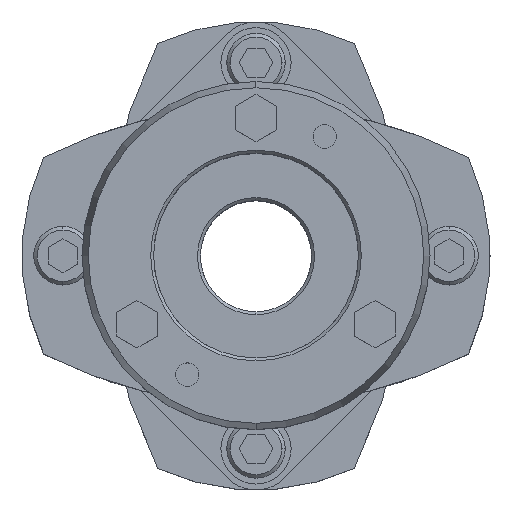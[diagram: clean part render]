
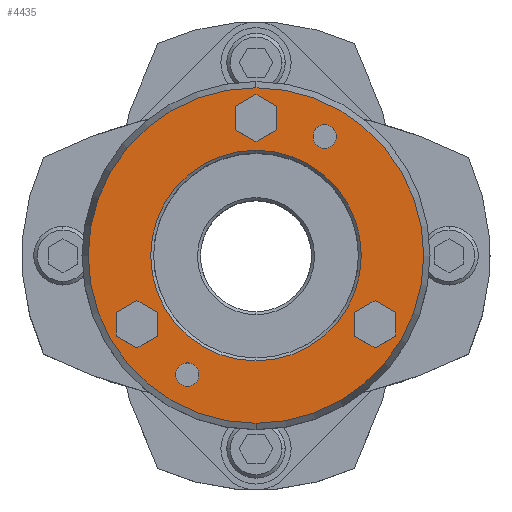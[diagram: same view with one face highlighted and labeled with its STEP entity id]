
A CAD part, top view. The second image highlights one B-rep face of the part: STEP entity #4435.
In plain terms, the highlighted planar face has unit normal (0, 0, 1).
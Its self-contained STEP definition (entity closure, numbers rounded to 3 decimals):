
#2309=CARTESIAN_POINT('',(0.,18.,45.25));
#2310=VERTEX_POINT('',#2309);
#2326=CARTESIAN_POINT('',(0.,-18.,45.25));
#2327=VERTEX_POINT('',#2326);
#2334=CARTESIAN_POINT('',(0.,0.,45.25));
#2335=DIRECTION('',(0.0,0.0,1.0));
#2336=DIRECTION('',(0.,1.0,0.0));
#2337=AXIS2_PLACEMENT_3D('',#2334,#2335,#2336);
#2338=CIRCLE('',#2337,18.0);
#2339=EDGE_CURVE('',#2327,#2310,#2338,.T.);
#2497=CARTESIAN_POINT('',(0.,-28.678,45.25));
#2498=VERTEX_POINT('',#2497);
#2505=CARTESIAN_POINT('',(0.,28.678,45.25));
#2506=VERTEX_POINT('',#2505);
#2507=CARTESIAN_POINT('',(0.,0.,45.25));
#2508=DIRECTION('',(0.0,0.0,-1.0));
#2509=DIRECTION('',(0.,-1.0,0.0));
#2510=AXIS2_PLACEMENT_3D('',#2507,#2508,#2509);
#2511=CIRCLE('',#2510,28.678);
#2512=EDGE_CURVE('',#2498,#2506,#2511,.T.);
#2625=CARTESIAN_POINT('',(-11.75,-18.352,45.25));
#2626=VERTEX_POINT('',#2625);
#2642=CARTESIAN_POINT('',(-11.75,-22.352,45.25));
#2643=VERTEX_POINT('',#2642);
#2650=CARTESIAN_POINT('',(-11.75,-20.352,45.25));
#2651=DIRECTION('',(0.0,0.0,-1.0));
#2652=DIRECTION('',(0.,1.0,0.0));
#2653=AXIS2_PLACEMENT_3D('',#2650,#2651,#2652);
#2654=CIRCLE('',#2653,2.0);
#2655=EDGE_CURVE('',#2626,#2643,#2654,.T.);
#2667=CARTESIAN_POINT('',(11.75,22.352,45.25));
#2668=VERTEX_POINT('',#2667);
#2684=CARTESIAN_POINT('',(11.75,18.352,45.25));
#2685=VERTEX_POINT('',#2684);
#2692=CARTESIAN_POINT('',(11.75,20.352,45.25));
#2693=DIRECTION('',(0.0,0.0,-1.0));
#2694=DIRECTION('',(0.,1.0,0.0));
#2695=AXIS2_PLACEMENT_3D('',#2692,#2693,#2694);
#2696=CIRCLE('',#2695,2.0);
#2697=EDGE_CURVE('',#2668,#2685,#2696,.T.);
#3448=CARTESIAN_POINT('',(11.75,20.352,45.25));
#3449=DIRECTION('',(0.0,0.0,-1.0));
#3450=DIRECTION('',(0.,1.0,0.0));
#3451=AXIS2_PLACEMENT_3D('',#3448,#3449,#3450);
#3452=CIRCLE('',#3451,2.0);
#3453=EDGE_CURVE('',#2685,#2668,#3452,.T.);
#3482=CARTESIAN_POINT('',(-11.75,-20.352,45.25));
#3483=DIRECTION('',(0.0,0.0,-1.0));
#3484=DIRECTION('',(0.,1.0,0.0));
#3485=AXIS2_PLACEMENT_3D('',#3482,#3483,#3484);
#3486=CIRCLE('',#3485,2.0);
#3487=EDGE_CURVE('',#2643,#2626,#3486,.T.);
#3525=CARTESIAN_POINT('',(0.,27.541,45.25));
#3526=VERTEX_POINT('',#3525);
#3533=CARTESIAN_POINT('',(-3.5,25.521,45.25));
#3534=VERTEX_POINT('',#3533);
#3535=CARTESIAN_POINT('',(-3.5,25.521,45.25));
#3536=DIRECTION('',(0.866,0.5,0.0));
#3537=VECTOR('',#3536,4.041);
#3538=LINE('',#3535,#3537);
#3539=EDGE_CURVE('',#3534,#3526,#3538,.T.);
#3563=CARTESIAN_POINT('',(3.5,25.521,45.25));
#3564=VERTEX_POINT('',#3563);
#3571=CARTESIAN_POINT('',(0.,27.541,45.25));
#3572=DIRECTION('',(0.866,-0.5,0.0));
#3573=VECTOR('',#3572,4.041);
#3574=LINE('',#3571,#3573);
#3575=EDGE_CURVE('',#3526,#3564,#3574,.T.);
#3594=CARTESIAN_POINT('',(3.5,21.479,45.25));
#3595=VERTEX_POINT('',#3594);
#3602=CARTESIAN_POINT('',(3.5,25.521,45.25));
#3603=DIRECTION('',(0.,-1.0,0.0));
#3604=VECTOR('',#3603,4.041);
#3605=LINE('',#3602,#3604);
#3606=EDGE_CURVE('',#3564,#3595,#3605,.T.);
#3625=CARTESIAN_POINT('',(0.,19.459,45.25));
#3626=VERTEX_POINT('',#3625);
#3633=CARTESIAN_POINT('',(3.5,21.479,45.25));
#3634=DIRECTION('',(-0.866,-0.5,0.0));
#3635=VECTOR('',#3634,4.041);
#3636=LINE('',#3633,#3635);
#3637=EDGE_CURVE('',#3595,#3626,#3636,.T.);
#3656=CARTESIAN_POINT('',(-3.5,21.479,45.25));
#3657=VERTEX_POINT('',#3656);
#3664=CARTESIAN_POINT('',(0.,19.459,45.25));
#3665=DIRECTION('',(-0.866,0.5,0.0));
#3666=VECTOR('',#3665,4.041);
#3667=LINE('',#3664,#3666);
#3668=EDGE_CURVE('',#3626,#3657,#3667,.T.);
#3686=CARTESIAN_POINT('',(-3.5,21.479,45.25));
#3687=DIRECTION('',(0.,1.0,0.0));
#3688=VECTOR('',#3687,4.041);
#3689=LINE('',#3686,#3688);
#3690=EDGE_CURVE('',#3657,#3534,#3689,.T.);
#3725=CARTESIAN_POINT('',(20.352,-7.709,45.25));
#3726=VERTEX_POINT('',#3725);
#3733=CARTESIAN_POINT('',(16.852,-9.729,45.25));
#3734=VERTEX_POINT('',#3733);
#3735=CARTESIAN_POINT('',(16.852,-9.729,45.25));
#3736=DIRECTION('',(0.866,0.5,0.0));
#3737=VECTOR('',#3736,4.041);
#3738=LINE('',#3735,#3737);
#3739=EDGE_CURVE('',#3734,#3726,#3738,.T.);
#3763=CARTESIAN_POINT('',(23.852,-9.729,45.25));
#3764=VERTEX_POINT('',#3763);
#3771=CARTESIAN_POINT('',(20.352,-7.709,45.25));
#3772=DIRECTION('',(0.866,-0.5,0.0));
#3773=VECTOR('',#3772,4.041);
#3774=LINE('',#3771,#3773);
#3775=EDGE_CURVE('',#3726,#3764,#3774,.T.);
#3794=CARTESIAN_POINT('',(23.852,-13.771,45.25));
#3795=VERTEX_POINT('',#3794);
#3802=CARTESIAN_POINT('',(23.852,-9.729,45.25));
#3803=DIRECTION('',(0.,-1.0,0.0));
#3804=VECTOR('',#3803,4.041);
#3805=LINE('',#3802,#3804);
#3806=EDGE_CURVE('',#3764,#3795,#3805,.T.);
#3825=CARTESIAN_POINT('',(20.352,-15.791,45.25));
#3826=VERTEX_POINT('',#3825);
#3833=CARTESIAN_POINT('',(23.852,-13.771,45.25));
#3834=DIRECTION('',(-0.866,-0.5,0.0));
#3835=VECTOR('',#3834,4.041);
#3836=LINE('',#3833,#3835);
#3837=EDGE_CURVE('',#3795,#3826,#3836,.T.);
#3856=CARTESIAN_POINT('',(16.852,-13.771,45.25));
#3857=VERTEX_POINT('',#3856);
#3864=CARTESIAN_POINT('',(20.352,-15.791,45.25));
#3865=DIRECTION('',(-0.866,0.5,0.0));
#3866=VECTOR('',#3865,4.041);
#3867=LINE('',#3864,#3866);
#3868=EDGE_CURVE('',#3826,#3857,#3867,.T.);
#3886=CARTESIAN_POINT('',(16.852,-13.771,45.25));
#3887=DIRECTION('',(0.,1.0,0.0));
#3888=VECTOR('',#3887,4.041);
#3889=LINE('',#3886,#3888);
#3890=EDGE_CURVE('',#3857,#3734,#3889,.T.);
#3925=CARTESIAN_POINT('',(-20.352,-7.709,45.25));
#3926=VERTEX_POINT('',#3925);
#3933=CARTESIAN_POINT('',(-23.852,-9.729,45.25));
#3934=VERTEX_POINT('',#3933);
#3935=CARTESIAN_POINT('',(-23.852,-9.729,45.25));
#3936=DIRECTION('',(0.866,0.5,0.0));
#3937=VECTOR('',#3936,4.041);
#3938=LINE('',#3935,#3937);
#3939=EDGE_CURVE('',#3934,#3926,#3938,.T.);
#3963=CARTESIAN_POINT('',(-16.852,-9.729,45.25));
#3964=VERTEX_POINT('',#3963);
#3971=CARTESIAN_POINT('',(-20.352,-7.709,45.25));
#3972=DIRECTION('',(0.866,-0.5,0.0));
#3973=VECTOR('',#3972,4.041);
#3974=LINE('',#3971,#3973);
#3975=EDGE_CURVE('',#3926,#3964,#3974,.T.);
#3994=CARTESIAN_POINT('',(-16.852,-13.771,45.25));
#3995=VERTEX_POINT('',#3994);
#4002=CARTESIAN_POINT('',(-16.852,-9.729,45.25));
#4003=DIRECTION('',(0.,-1.0,0.0));
#4004=VECTOR('',#4003,4.041);
#4005=LINE('',#4002,#4004);
#4006=EDGE_CURVE('',#3964,#3995,#4005,.T.);
#4025=CARTESIAN_POINT('',(-20.352,-15.791,45.25));
#4026=VERTEX_POINT('',#4025);
#4033=CARTESIAN_POINT('',(-16.852,-13.771,45.25));
#4034=DIRECTION('',(-0.866,-0.5,0.0));
#4035=VECTOR('',#4034,4.041);
#4036=LINE('',#4033,#4035);
#4037=EDGE_CURVE('',#3995,#4026,#4036,.T.);
#4056=CARTESIAN_POINT('',(-23.852,-13.771,45.25));
#4057=VERTEX_POINT('',#4056);
#4064=CARTESIAN_POINT('',(-20.352,-15.791,45.25));
#4065=DIRECTION('',(-0.866,0.5,0.0));
#4066=VECTOR('',#4065,4.041);
#4067=LINE('',#4064,#4066);
#4068=EDGE_CURVE('',#4026,#4057,#4067,.T.);
#4086=CARTESIAN_POINT('',(-23.852,-13.771,45.25));
#4087=DIRECTION('',(0.,1.0,0.0));
#4088=VECTOR('',#4087,4.041);
#4089=LINE('',#4086,#4088);
#4090=EDGE_CURVE('',#4057,#3934,#4089,.T.);
#4374=CARTESIAN_POINT('',(0.,0.,45.25));
#4375=DIRECTION('',(0.0,0.0,-1.0));
#4376=DIRECTION('',(0.,-1.0,0.0));
#4377=AXIS2_PLACEMENT_3D('',#4374,#4375,#4376);
#4378=CIRCLE('',#4377,28.678);
#4379=EDGE_CURVE('',#2506,#2498,#4378,.T.);
#4384=CARTESIAN_POINT('',(0.,2.364,45.25));
#4385=DIRECTION('',(0.0,0.0,1.0));
#4386=DIRECTION('',(0.,1.0,0.0));
#4387=AXIS2_PLACEMENT_3D('',#4384,#4385,#4386);
#4388=PLANE('',#4387);
#4389=ORIENTED_EDGE('',*,*,#4379,.F.);
#4390=ORIENTED_EDGE('',*,*,#2512,.F.);
#4391=EDGE_LOOP('',(#4389,#4390));
#4392=FACE_OUTER_BOUND('',#4391,.T.);
#4393=ORIENTED_EDGE('',*,*,#2697,.T.);
#4394=ORIENTED_EDGE('',*,*,#3453,.T.);
#4395=EDGE_LOOP('',(#4393,#4394));
#4396=FACE_BOUND('',#4395,.T.);
#4397=ORIENTED_EDGE('',*,*,#2655,.T.);
#4398=ORIENTED_EDGE('',*,*,#3487,.T.);
#4399=EDGE_LOOP('',(#4397,#4398));
#4400=FACE_BOUND('',#4399,.T.);
#4401=ORIENTED_EDGE('',*,*,#3539,.T.);
#4402=ORIENTED_EDGE('',*,*,#3575,.T.);
#4403=ORIENTED_EDGE('',*,*,#3606,.T.);
#4404=ORIENTED_EDGE('',*,*,#3637,.T.);
#4405=ORIENTED_EDGE('',*,*,#3668,.T.);
#4406=ORIENTED_EDGE('',*,*,#3690,.T.);
#4407=EDGE_LOOP('',(#4401,#4402,#4403,#4404,#4405,#4406));
#4408=FACE_BOUND('',#4407,.T.);
#4409=ORIENTED_EDGE('',*,*,#3739,.T.);
#4410=ORIENTED_EDGE('',*,*,#3775,.T.);
#4411=ORIENTED_EDGE('',*,*,#3806,.T.);
#4412=ORIENTED_EDGE('',*,*,#3837,.T.);
#4413=ORIENTED_EDGE('',*,*,#3868,.T.);
#4414=ORIENTED_EDGE('',*,*,#3890,.T.);
#4415=EDGE_LOOP('',(#4409,#4410,#4411,#4412,#4413,#4414));
#4416=FACE_BOUND('',#4415,.T.);
#4417=ORIENTED_EDGE('',*,*,#3939,.T.);
#4418=ORIENTED_EDGE('',*,*,#3975,.T.);
#4419=ORIENTED_EDGE('',*,*,#4006,.T.);
#4420=ORIENTED_EDGE('',*,*,#4037,.T.);
#4421=ORIENTED_EDGE('',*,*,#4068,.T.);
#4422=ORIENTED_EDGE('',*,*,#4090,.T.);
#4423=EDGE_LOOP('',(#4417,#4418,#4419,#4420,#4421,#4422));
#4424=FACE_BOUND('',#4423,.T.);
#4425=ORIENTED_EDGE('',*,*,#2339,.F.);
#4426=CARTESIAN_POINT('',(0.,0.,45.25));
#4427=DIRECTION('',(0.0,0.0,1.0));
#4428=DIRECTION('',(0.,1.0,0.0));
#4429=AXIS2_PLACEMENT_3D('',#4426,#4427,#4428);
#4430=CIRCLE('',#4429,18.0);
#4431=EDGE_CURVE('',#2310,#2327,#4430,.T.);
#4432=ORIENTED_EDGE('',*,*,#4431,.F.);
#4433=EDGE_LOOP('',(#4425,#4432));
#4434=FACE_BOUND('',#4433,.T.);
#4435=ADVANCED_FACE('',(#4392,#4396,#4400,#4408,#4416,#4424,#4434),#4388,.T.);
